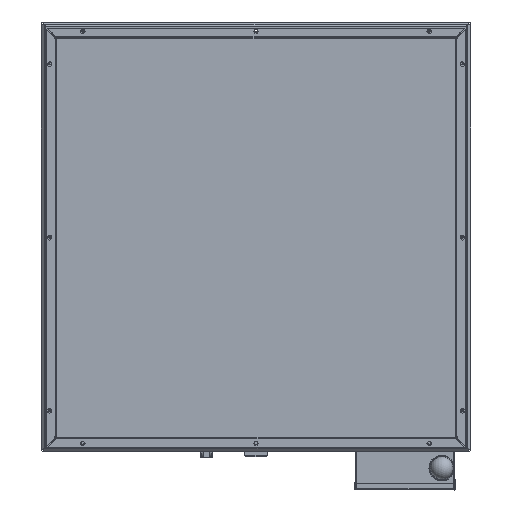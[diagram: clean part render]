
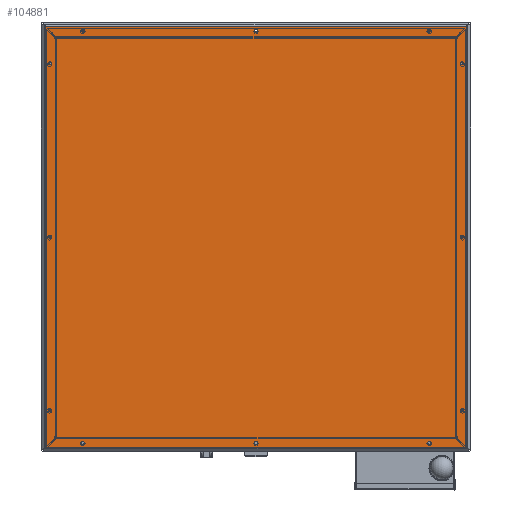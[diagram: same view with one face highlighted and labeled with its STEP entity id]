
A CAD part, top view. The second image highlights one B-rep face of the part: STEP entity #104881.
In plain terms, the highlighted planar face has unit normal (0, 0, 1).
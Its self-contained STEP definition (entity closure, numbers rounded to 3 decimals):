
#2084=FACE_BOUND('',#22053,.T.);
#2085=FACE_BOUND('',#22054,.T.);
#2086=FACE_BOUND('',#22055,.T.);
#2087=FACE_BOUND('',#22056,.T.);
#2088=FACE_BOUND('',#22057,.T.);
#2089=FACE_BOUND('',#22058,.T.);
#2090=FACE_BOUND('',#22059,.T.);
#2091=FACE_BOUND('',#22060,.T.);
#2092=FACE_BOUND('',#22061,.T.);
#2093=FACE_BOUND('',#22062,.T.);
#2094=FACE_BOUND('',#22063,.T.);
#2095=FACE_BOUND('',#22064,.T.);
#6782=PLANE('',#113646);
#10682=CIRCLE('',#113623,3.5);
#10683=CIRCLE('',#113625,3.5);
#10684=CIRCLE('',#113627,3.5);
#10685=CIRCLE('',#113629,3.5);
#10686=CIRCLE('',#113631,3.5);
#10687=CIRCLE('',#113633,3.5);
#10688=CIRCLE('',#113635,3.5);
#10689=CIRCLE('',#113637,3.5);
#10690=CIRCLE('',#113639,3.5);
#10691=CIRCLE('',#113641,3.5);
#10692=CIRCLE('',#113643,3.5);
#10693=CIRCLE('',#113645,3.5);
#15807=FACE_OUTER_BOUND('',#22052,.T.);
#22052=EDGE_LOOP('',(#92066,#92067,#92068,#92069));
#22053=EDGE_LOOP('',(#92070));
#22054=EDGE_LOOP('',(#92071));
#22055=EDGE_LOOP('',(#92072));
#22056=EDGE_LOOP('',(#92073));
#22057=EDGE_LOOP('',(#92074));
#22058=EDGE_LOOP('',(#92075));
#22059=EDGE_LOOP('',(#92076));
#22060=EDGE_LOOP('',(#92077));
#22061=EDGE_LOOP('',(#92078));
#22062=EDGE_LOOP('',(#92079));
#22063=EDGE_LOOP('',(#92080));
#22064=EDGE_LOOP('',(#92081));
#31772=LINE('',#180392,#41394);
#31773=LINE('',#180394,#41395);
#31774=LINE('',#180396,#41396);
#31775=LINE('',#180397,#41397);
#41394=VECTOR('',#137994,1000.);
#41395=VECTOR('',#137995,1000.);
#41396=VECTOR('',#137996,1000.);
#41397=VECTOR('',#137997,1000.);
#51655=VERTEX_POINT('',#180342);
#51656=VERTEX_POINT('',#180346);
#51657=VERTEX_POINT('',#180350);
#51658=VERTEX_POINT('',#180354);
#51659=VERTEX_POINT('',#180358);
#51660=VERTEX_POINT('',#180362);
#51661=VERTEX_POINT('',#180366);
#51662=VERTEX_POINT('',#180370);
#51663=VERTEX_POINT('',#180374);
#51664=VERTEX_POINT('',#180378);
#51665=VERTEX_POINT('',#180382);
#51666=VERTEX_POINT('',#180386);
#51667=VERTEX_POINT('',#180390);
#51668=VERTEX_POINT('',#180391);
#51669=VERTEX_POINT('',#180393);
#51670=VERTEX_POINT('',#180395);
#65664=EDGE_CURVE('',#51655,#51655,#10682,.T.);
#65666=EDGE_CURVE('',#51656,#51656,#10683,.T.);
#65668=EDGE_CURVE('',#51657,#51657,#10684,.T.);
#65670=EDGE_CURVE('',#51658,#51658,#10685,.T.);
#65672=EDGE_CURVE('',#51659,#51659,#10686,.T.);
#65674=EDGE_CURVE('',#51660,#51660,#10687,.T.);
#65676=EDGE_CURVE('',#51661,#51661,#10688,.T.);
#65678=EDGE_CURVE('',#51662,#51662,#10689,.T.);
#65680=EDGE_CURVE('',#51663,#51663,#10690,.T.);
#65682=EDGE_CURVE('',#51664,#51664,#10691,.T.);
#65684=EDGE_CURVE('',#51665,#51665,#10692,.T.);
#65686=EDGE_CURVE('',#51666,#51666,#10693,.T.);
#65687=EDGE_CURVE('',#51667,#51668,#31772,.F.);
#65688=EDGE_CURVE('',#51669,#51667,#31773,.F.);
#65689=EDGE_CURVE('',#51670,#51669,#31774,.F.);
#65690=EDGE_CURVE('',#51668,#51670,#31775,.F.);
#92066=ORIENTED_EDGE('',*,*,#65687,.F.);
#92067=ORIENTED_EDGE('',*,*,#65688,.F.);
#92068=ORIENTED_EDGE('',*,*,#65689,.F.);
#92069=ORIENTED_EDGE('',*,*,#65690,.F.);
#92070=ORIENTED_EDGE('',*,*,#65664,.T.);
#92071=ORIENTED_EDGE('',*,*,#65666,.T.);
#92072=ORIENTED_EDGE('',*,*,#65668,.T.);
#92073=ORIENTED_EDGE('',*,*,#65670,.T.);
#92074=ORIENTED_EDGE('',*,*,#65672,.T.);
#92075=ORIENTED_EDGE('',*,*,#65674,.T.);
#92076=ORIENTED_EDGE('',*,*,#65676,.T.);
#92077=ORIENTED_EDGE('',*,*,#65678,.T.);
#92078=ORIENTED_EDGE('',*,*,#65680,.T.);
#92079=ORIENTED_EDGE('',*,*,#65682,.T.);
#92080=ORIENTED_EDGE('',*,*,#65684,.T.);
#92081=ORIENTED_EDGE('',*,*,#65686,.T.);
#104881=ADVANCED_FACE('',(#15807,#2084,#2085,#2086,#2087,#2088,#2089,#2090,
#2091,#2092,#2093,#2094,#2095),#6782,.T.);
#113623=AXIS2_PLACEMENT_3D('',#180344,#137935,#137936);
#113625=AXIS2_PLACEMENT_3D('',#180348,#137940,#137941);
#113627=AXIS2_PLACEMENT_3D('',#180352,#137945,#137946);
#113629=AXIS2_PLACEMENT_3D('',#180356,#137950,#137951);
#113631=AXIS2_PLACEMENT_3D('',#180360,#137955,#137956);
#113633=AXIS2_PLACEMENT_3D('',#180364,#137960,#137961);
#113635=AXIS2_PLACEMENT_3D('',#180368,#137965,#137966);
#113637=AXIS2_PLACEMENT_3D('',#180372,#137970,#137971);
#113639=AXIS2_PLACEMENT_3D('',#180376,#137975,#137976);
#113641=AXIS2_PLACEMENT_3D('',#180380,#137980,#137981);
#113643=AXIS2_PLACEMENT_3D('',#180384,#137985,#137986);
#113645=AXIS2_PLACEMENT_3D('',#180388,#137990,#137991);
#113646=AXIS2_PLACEMENT_3D('',#180389,#137992,#137993);
#137935=DIRECTION('center_axis',(0.,0.,
-1.));
#137936=DIRECTION('ref_axis',(0.,-1.,0.));
#137940=DIRECTION('center_axis',(0.,0.,
-1.));
#137941=DIRECTION('ref_axis',(0.,-1.,0.));
#137945=DIRECTION('center_axis',(0.,0.,
-1.));
#137946=DIRECTION('ref_axis',(0.,-1.,0.));
#137950=DIRECTION('center_axis',(0.,0.,
-1.));
#137951=DIRECTION('ref_axis',(0.,-1.,0.));
#137955=DIRECTION('center_axis',(0.,0.,
-1.));
#137956=DIRECTION('ref_axis',(0.,-1.,0.));
#137960=DIRECTION('center_axis',(0.,0.,
-1.));
#137961=DIRECTION('ref_axis',(0.,-1.,0.));
#137965=DIRECTION('center_axis',(0.,0.,
-1.));
#137966=DIRECTION('ref_axis',(0.,-1.,0.));
#137970=DIRECTION('center_axis',(0.,0.,
-1.));
#137971=DIRECTION('ref_axis',(0.,-1.,0.));
#137975=DIRECTION('center_axis',(0.,0.,
-1.));
#137976=DIRECTION('ref_axis',(0.,-1.,0.));
#137980=DIRECTION('center_axis',(0.,0.,
-1.));
#137981=DIRECTION('ref_axis',(0.,-1.,0.));
#137985=DIRECTION('center_axis',(0.,0.,
-1.));
#137986=DIRECTION('ref_axis',(0.,-1.,0.));
#137990=DIRECTION('center_axis',(0.,0.,
-1.));
#137991=DIRECTION('ref_axis',(0.,-1.,0.));
#137992=DIRECTION('center_axis',(0.,0.,
1.));
#137993=DIRECTION('ref_axis',(1.,0.,0.));
#137994=DIRECTION('',(0.,1.,0.));
#137995=DIRECTION('',(-1.,0.,0.));
#137996=DIRECTION('',(0.,-1.,0.));
#137997=DIRECTION('',(1.,0.,0.));
#180342=CARTESIAN_POINT('',(-466.906,-375.795,1039.277));
#180344=CARTESIAN_POINT('Origin',(-466.906,-379.295,1039.277));
#180346=CARTESIAN_POINT('',(-393.078,-449.625,1039.277));
#180348=CARTESIAN_POINT('Origin',(-393.078,-453.125,1039.277));
#180350=CARTESIAN_POINT('',(-4.079,-449.628,1039.274));
#180352=CARTESIAN_POINT('Origin',(-4.079,-453.128,1039.274));
#180354=CARTESIAN_POINT('',(384.921,-449.63,1039.272));
#180356=CARTESIAN_POINT('Origin',(384.921,-453.13,1039.272));
#180358=CARTESIAN_POINT('',(458.651,-375.629,1039.271));
#180360=CARTESIAN_POINT('Origin',(458.651,-379.129,1039.271));
#180362=CARTESIAN_POINT('',(458.753,13.198,1039.271));
#180364=CARTESIAN_POINT('Origin',(458.753,9.698,1039.271));
#180366=CARTESIAN_POINT('',(458.756,402.198,1039.271));
#180368=CARTESIAN_POINT('Origin',(458.756,398.698,1039.271));
#180370=CARTESIAN_POINT('',(384.928,476.027,1039.272));
#180372=CARTESIAN_POINT('Origin',(384.928,472.527,1039.272));
#180374=CARTESIAN_POINT('',(-4.072,476.03,1039.274));
#180376=CARTESIAN_POINT('Origin',(-4.072,472.53,1039.274));
#180378=CARTESIAN_POINT('',(-393.072,476.032,1039.277));
#180380=CARTESIAN_POINT('Origin',(-393.072,472.532,1039.277));
#180382=CARTESIAN_POINT('',(-466.901,402.204,1039.277));
#180384=CARTESIAN_POINT('Origin',(-466.901,398.704,1039.277));
#180386=CARTESIAN_POINT('',(-466.903,13.204,1039.277));
#180388=CARTESIAN_POINT('Origin',(-466.903,9.704,1039.277));
#180389=CARTESIAN_POINT('Origin',(-4.077,9.702,1039.274));
#180390=CARTESIAN_POINT('',(468.927,482.699,1039.271));
#180391=CARTESIAN_POINT('',(468.92,-463.301,1039.271));
#180392=CARTESIAN_POINT('',(468.925,245.324,1039.271));
#180393=CARTESIAN_POINT('',(-477.073,482.705,1039.277));
#180394=CARTESIAN_POINT('',(-239.698,482.704,1039.276));
#180395=CARTESIAN_POINT('',(-477.08,-463.295,1039.277));
#180396=CARTESIAN_POINT('',(-477.078,-225.92,1039.277));
#180397=CARTESIAN_POINT('',(231.545,-463.299,1039.273));
